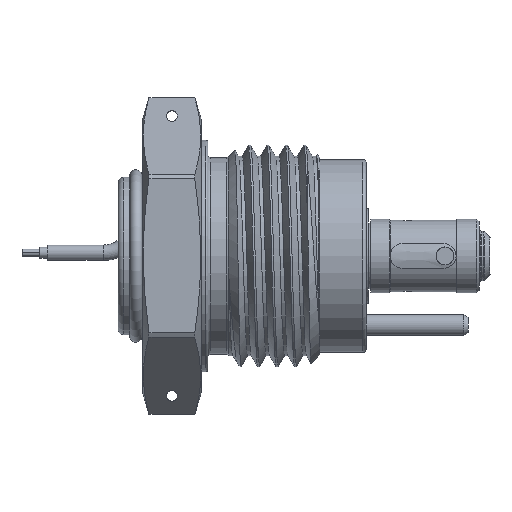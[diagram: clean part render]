
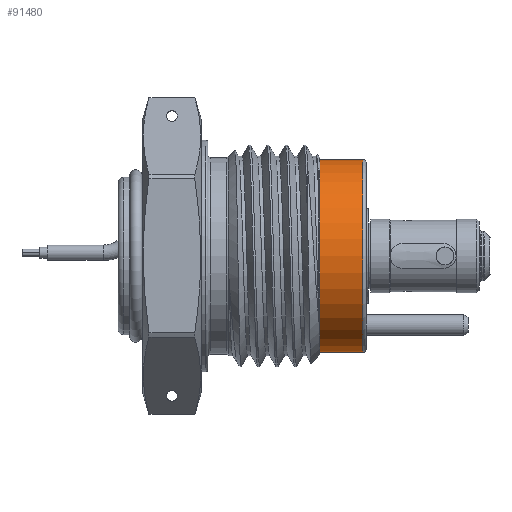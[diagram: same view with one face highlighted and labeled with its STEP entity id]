
A CAD part, top view. The second image highlights one B-rep face of the part: STEP entity #91480.
In plain terms, the highlighted cylindrical face has radius 11.049 mm (diameter 22.098 mm), a partial arc.
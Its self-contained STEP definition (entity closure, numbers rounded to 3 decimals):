
#90960=CARTESIAN_POINT('',(26.543,4.724,0.));
#90970=DIRECTION('',(-1.,0.,0.));
#90980=DIRECTION('',(0.,1.,0.));
#90990=AXIS2_PLACEMENT_3D('',#90960,#90970,#90980);
#91000=CIRCLE('',#90990,11.049);
#91010=CARTESIAN_POINT('',(26.543,15.773,0.));
#91020=VERTEX_POINT('',#91010);
#91030=CARTESIAN_POINT('',(26.543,-6.325,0.));
#91040=VERTEX_POINT('',#91030);
#91070=EDGE_CURVE('',#91040,#91020,#91000,.T.);
#91170=CARTESIAN_POINT('',(28.842,4.724,0.));
#91180=DIRECTION('',(1.,0.,0.));
#91190=DIRECTION('',(0.,-1.,0.));
#91200=AXIS2_PLACEMENT_3D('',#91170,#91180,#91190);
#91210=CYLINDRICAL_SURFACE('',#91200,11.049);
#91220=CARTESIAN_POINT('',(28.842,15.773,0.));
#91230=DIRECTION('',(1.,0.,0.));
#91240=VECTOR('',#91230,1.);
#91250=LINE('',#91220,#91240);
#91260=CARTESIAN_POINT('',(31.496,15.773,0.));
#91270=VERTEX_POINT('',#91260);
#91280=EDGE_CURVE('',#91020,#91270,#91250,.T.);
#91290=ORIENTED_EDGE('',*,*,#91280,.F.);
#91300=CARTESIAN_POINT('',(31.496,4.724,0.));
#91310=DIRECTION('',(1.,0.,0.));
#91320=DIRECTION('',(0.,-1.,0.));
#91330=AXIS2_PLACEMENT_3D('',#91300,#91310,#91320);
#91340=CIRCLE('',#91330,11.049);
#91350=CARTESIAN_POINT('',(31.496,-6.325,0.));
#91360=VERTEX_POINT('',#91350);
#91370=EDGE_CURVE('',#91270,#91360,#91340,.T.);
#91380=ORIENTED_EDGE('',*,*,#91370,.F.);
#91390=CARTESIAN_POINT('',(28.842,-6.325,0.));
#91400=DIRECTION('',(1.,0.,0.));
#91410=VECTOR('',#91400,1.);
#91420=LINE('',#91390,#91410);
#91430=EDGE_CURVE('',#91040,#91360,#91420,.T.);
#91440=ORIENTED_EDGE('',*,*,#91430,.T.);
#91450=ORIENTED_EDGE('',*,*,#91070,.F.);
#91460=EDGE_LOOP('',(#91450,#91440,#91380,#91290));
#91470=FACE_OUTER_BOUND('',#91460,.T.);
#91480=ADVANCED_FACE('',(#91470),#91210,.T.);
